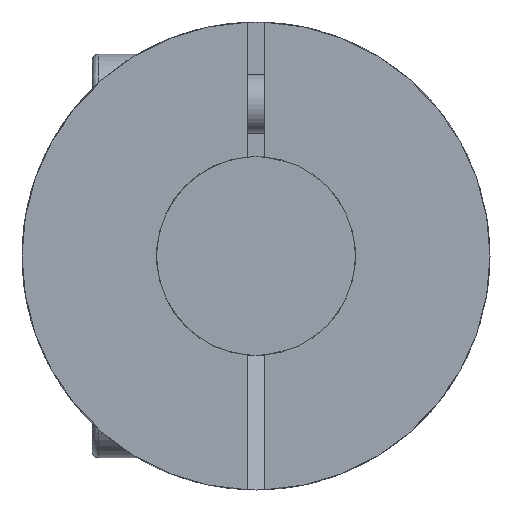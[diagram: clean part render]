
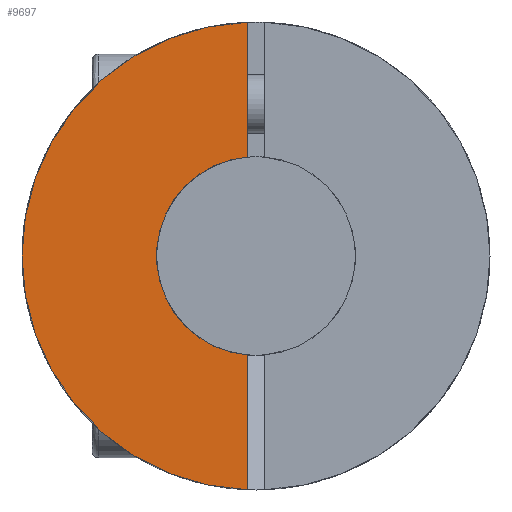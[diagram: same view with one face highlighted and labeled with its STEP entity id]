
A CAD part, front view. The second image highlights one B-rep face of the part: STEP entity #9697.
In plain terms, the highlighted planar face has unit normal (0, -1, 0).
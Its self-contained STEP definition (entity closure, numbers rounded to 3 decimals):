
#129 = CARTESIAN_POINT ( 'NONE',  ( 0., 0., 0. ) ) ;
#281 = VERTEX_POINT ( 'NONE', #5354 ) ;
#392 = CARTESIAN_POINT ( 'NONE',  ( 0., 0., 0. ) ) ;
#522 = VECTOR ( 'NONE', #7434, 1000. ) ;
#663 = DIRECTION ( 'NONE',  ( 0., 0., 1. ) ) ;
#731 = AXIS2_PLACEMENT_3D ( 'NONE', #392, #3417, #4073 ) ;
#1096 = PLANE ( 'NONE',  #731 ) ;
#1527 = EDGE_CURVE ( 'NONE', #5548, #2365, #8736, .T. ) ;
#1907 = FACE_OUTER_BOUND ( 'NONE', #4829, .T. ) ;
#1916 = EDGE_CURVE ( 'NONE', #2365, #281, #7477, .T. ) ;
#2053 = AXIS2_PLACEMENT_3D ( 'NONE', #129, #6187, #9245 ) ;
#2365 = VERTEX_POINT ( 'NONE', #2457 ) ;
#2457 = CARTESIAN_POINT ( 'NONE',  ( -0.75, 0., -8.467 ) ) ;
#2597 = CARTESIAN_POINT ( 'NONE',  ( -0.75, 0., 19.986 ) ) ;
#3004 = CIRCLE ( 'NONE', #2053, 20. ) ;
#3417 = DIRECTION ( 'NONE',  ( 0., 1., 0. ) ) ;
#3680 = EDGE_CURVE ( 'NONE', #281, #5810, #3004, .T. ) ;
#3969 = DIRECTION ( 'NONE',  ( 0., 0., -1. ) ) ;
#4073 = DIRECTION ( 'NONE',  ( 1., 0., 0. ) ) ;
#4128 = VECTOR ( 'NONE', #663, 1000. ) ;
#4310 = CARTESIAN_POINT ( 'NONE',  ( -0.75, 0., 0. ) ) ;
#4829 = EDGE_LOOP ( 'NONE', ( #7751, #5399, #5918, #7420 ) ) ;
#5354 = CARTESIAN_POINT ( 'NONE',  ( -0.75, 0., -19.986 ) ) ;
#5399 = ORIENTED_EDGE ( 'NONE', *, *, #1527, .F. ) ;
#5548 = VERTEX_POINT ( 'NONE', #9408 ) ;
#5810 = VERTEX_POINT ( 'NONE', #2597 ) ;
#5918 = ORIENTED_EDGE ( 'NONE', *, *, #7829, .T. ) ;
#6187 = DIRECTION ( 'NONE',  ( 0., 1., 0. ) ) ;
#6997 = DIRECTION ( 'NONE',  ( 0., -1., 0. ) ) ;
#7131 = AXIS2_PLACEMENT_3D ( 'NONE', #8552, #6997, #3969 ) ;
#7420 = ORIENTED_EDGE ( 'NONE', *, *, #3680, .F. ) ;
#7434 = DIRECTION ( 'NONE',  ( 0., 0., -1. ) ) ;
#7477 = LINE ( 'NONE', #4310, #522 ) ;
#7640 = LINE ( 'NONE', #8486, #4128 ) ;
#7751 = ORIENTED_EDGE ( 'NONE', *, *, #1916, .F. ) ;
#7829 = EDGE_CURVE ( 'NONE', #5548, #5810, #7640, .T. ) ;
#8486 = CARTESIAN_POINT ( 'NONE',  ( -0.75, 0., 0. ) ) ;
#8552 = CARTESIAN_POINT ( 'NONE',  ( 0., 0., 0. ) ) ;
#8736 = CIRCLE ( 'NONE', #7131, 8.5 ) ;
#9245 = DIRECTION ( 'NONE',  ( 0., 0., -1. ) ) ;
#9408 = CARTESIAN_POINT ( 'NONE',  ( -0.75, 0., 8.467 ) ) ;
#9697 = ADVANCED_FACE ( 'NONE', ( #1907 ), #1096, .F. ) ;
